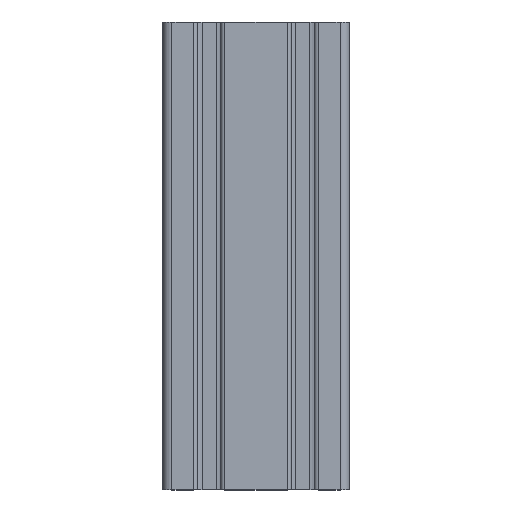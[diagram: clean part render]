
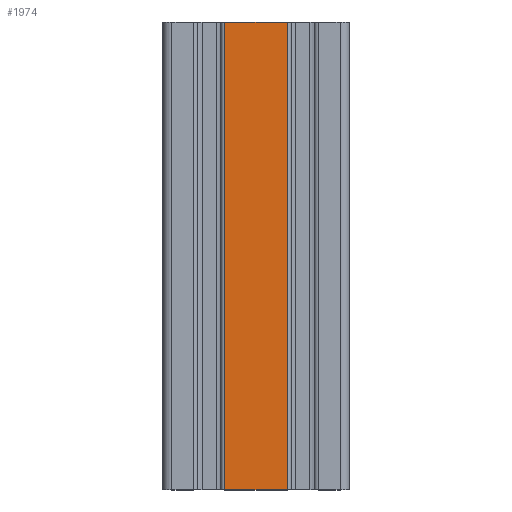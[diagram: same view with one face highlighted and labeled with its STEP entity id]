
A CAD part, top view. The second image highlights one B-rep face of the part: STEP entity #1974.
In plain terms, the highlighted planar face has unit normal (0, 0, 1).
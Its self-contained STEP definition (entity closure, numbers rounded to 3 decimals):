
#81 = CARTESIAN_POINT ( 'NONE',  ( -6.7, 50., 20. ) ) ;
#93 = EDGE_LOOP ( 'NONE', ( #951, #471, #1921, #3717 ) ) ;
#254 = FACE_OUTER_BOUND ( 'NONE', #93, .T. ) ;
#471 = ORIENTED_EDGE ( 'NONE', *, *, #3450, .F. ) ;
#491 = EDGE_CURVE ( 'NONE', #5299, #1287, #4948, .T. ) ;
#618 = VECTOR ( 'NONE', #4244, 1000. ) ;
#951 = ORIENTED_EDGE ( 'NONE', *, *, #3819, .T. ) ;
#1080 = CARTESIAN_POINT ( 'NONE',  ( 6.7, -50., 20. ) ) ;
#1274 = LINE ( 'NONE', #4684, #618 ) ;
#1287 = VERTEX_POINT ( 'NONE', #3286 ) ;
#1321 = EDGE_CURVE ( 'NONE', #5299, #2902, #1274, .T. ) ;
#1693 = CARTESIAN_POINT ( 'NONE',  ( -6.7, 50., 20. ) ) ;
#1921 = ORIENTED_EDGE ( 'NONE', *, *, #491, .F. ) ;
#1974 = ADVANCED_FACE ( 'NONE', ( #254 ), #2137, .F. ) ;
#2127 = VECTOR ( 'NONE', #5265, 1000. ) ;
#2137 = PLANE ( 'NONE',  #4494 ) ;
#2200 = CARTESIAN_POINT ( 'NONE',  ( -6.7, 50., 20. ) ) ;
#2902 = VERTEX_POINT ( 'NONE', #4065 ) ;
#3053 = VECTOR ( 'NONE', #5418, 1000. ) ;
#3188 = DIRECTION ( 'NONE',  ( 0., 0., -1. ) ) ;
#3286 = CARTESIAN_POINT ( 'NONE',  ( 6.7, 50., 20. ) ) ;
#3450 = EDGE_CURVE ( 'NONE', #1287, #5694, #5803, .T. ) ;
#3717 = ORIENTED_EDGE ( 'NONE', *, *, #1321, .T. ) ;
#3790 = CARTESIAN_POINT ( 'NONE',  ( 6.7, 50., 20. ) ) ;
#3819 = EDGE_CURVE ( 'NONE', #2902, #5694, #3927, .T. ) ;
#3927 = LINE ( 'NONE', #4435, #5174 ) ;
#4065 = CARTESIAN_POINT ( 'NONE',  ( -6.7, -50., 20. ) ) ;
#4244 = DIRECTION ( 'NONE',  ( 0., -1., 0. ) ) ;
#4435 = CARTESIAN_POINT ( 'NONE',  ( -6.7, -50., 20. ) ) ;
#4494 = AXIS2_PLACEMENT_3D ( 'NONE', #2200, #3188, #6060 ) ;
#4684 = CARTESIAN_POINT ( 'NONE',  ( -6.7, 50., 20. ) ) ;
#4948 = LINE ( 'NONE', #1693, #3053 ) ;
#5174 = VECTOR ( 'NONE', #5877, 1000. ) ;
#5265 = DIRECTION ( 'NONE',  ( 0., -1., 0. ) ) ;
#5299 = VERTEX_POINT ( 'NONE', #81 ) ;
#5418 = DIRECTION ( 'NONE',  ( 1., 0., 0. ) ) ;
#5694 = VERTEX_POINT ( 'NONE', #1080 ) ;
#5803 = LINE ( 'NONE', #3790, #2127 ) ;
#5877 = DIRECTION ( 'NONE',  ( 1., 0., 0. ) ) ;
#6060 = DIRECTION ( 'NONE',  ( -1., 0., 0. ) ) ;
